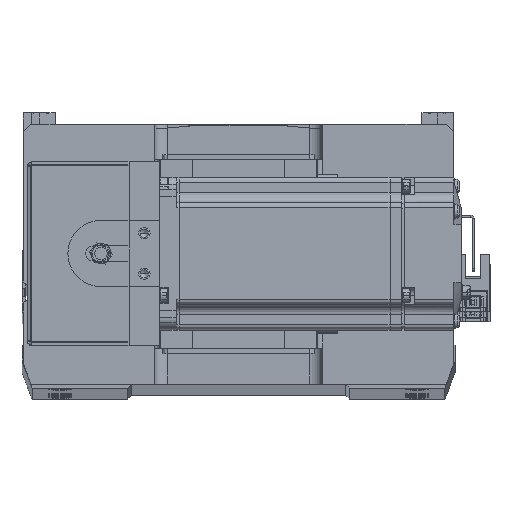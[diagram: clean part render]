
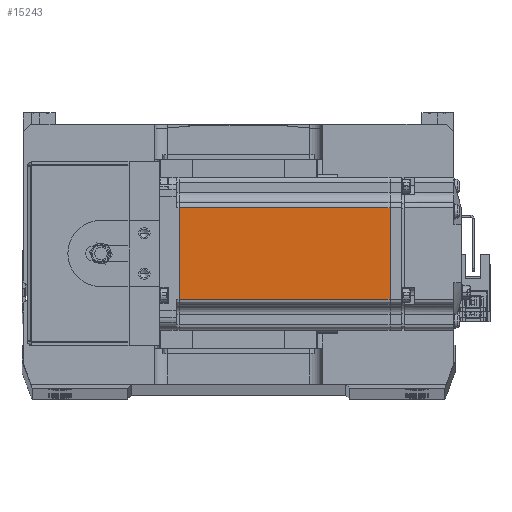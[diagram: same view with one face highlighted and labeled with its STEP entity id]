
A CAD part, top view. The second image highlights one B-rep face of the part: STEP entity #15243.
In plain terms, the highlighted planar face has unit normal (0, 0, 1) as drawn and (0, 1, 0) by its records, which use the part's own axes.
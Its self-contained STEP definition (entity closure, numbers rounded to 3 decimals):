
#178 = DIRECTION ( 'NONE',  ( 0., 1., 0. ) ) ;
#657 = DIRECTION ( 'NONE',  ( 0., 0., 1. ) ) ;
#1361 = VERTEX_POINT ( 'NONE', #39278 ) ;
#2673 = EDGE_CURVE ( 'NONE', #9755, #37038, #24709, .T. ) ;
#5608 = DIRECTION ( 'NONE',  ( 0., 0., 1. ) ) ;
#5767 = VERTEX_POINT ( 'NONE', #23130 ) ;
#6433 = VECTOR ( 'NONE', #21697, 1000. ) ;
#7419 = DIRECTION ( 'NONE',  ( 1., 0., 0. ) ) ;
#7828 = CARTESIAN_POINT ( 'NONE',  ( -6.5, 30., 25. ) ) ;
#8279 = PLANE ( 'NONE',  #18482 ) ;
#9653 = EDGE_CURVE ( 'NONE', #9755, #5767, #30272, .T. ) ;
#9755 = VERTEX_POINT ( 'NONE', #14109 ) ;
#11166 = CARTESIAN_POINT ( 'NONE',  ( -7.75, 30., 18. ) ) ;
#13024 = EDGE_CURVE ( 'NONE', #5767, #1361, #44594, .T. ) ;
#13550 = EDGE_LOOP ( 'NONE', ( #28449, #27804, #24013, #41992 ) ) ;
#14109 = CARTESIAN_POINT ( 'NONE',  ( -7.75, 30., -18. ) ) ;
#15243 = ADVANCED_FACE ( 'NONE', ( #25808 ), #8279, .T. ) ;
#18482 = AXIS2_PLACEMENT_3D ( 'NONE', #7828, #178, #657 ) ;
#18693 = CARTESIAN_POINT ( 'NONE',  ( -7.75, 30., 0. ) ) ;
#19917 = CARTESIAN_POINT ( 'NONE',  ( -6.5, 30., -18. ) ) ;
#21697 = DIRECTION ( 'NONE',  ( 0., 0., 1. ) ) ;
#23130 = CARTESIAN_POINT ( 'NONE',  ( -90.45, 30., -18. ) ) ;
#23476 = VECTOR ( 'NONE', #5608, 1000. ) ;
#24013 = ORIENTED_EDGE ( 'NONE', *, *, #13024, .T. ) ;
#24709 = LINE ( 'NONE', #18693, #6433 ) ;
#25808 = FACE_OUTER_BOUND ( 'NONE', #13550, .T. ) ;
#27804 = ORIENTED_EDGE ( 'NONE', *, *, #9653, .T. ) ;
#28449 = ORIENTED_EDGE ( 'NONE', *, *, #2673, .F. ) ;
#30272 = LINE ( 'NONE', #19917, #38650 ) ;
#32094 = CARTESIAN_POINT ( 'NONE',  ( -6.5, 30., 18. ) ) ;
#33009 = VECTOR ( 'NONE', #7419, 1000. ) ;
#33942 = DIRECTION ( 'NONE',  ( -1., 0., 0. ) ) ;
#35179 = EDGE_CURVE ( 'NONE', #1361, #37038, #35321, .T. ) ;
#35321 = LINE ( 'NONE', #32094, #33009 ) ;
#37038 = VERTEX_POINT ( 'NONE', #11166 ) ;
#38650 = VECTOR ( 'NONE', #33942, 1000. ) ;
#39278 = CARTESIAN_POINT ( 'NONE',  ( -90.45, 30., 18. ) ) ;
#41992 = ORIENTED_EDGE ( 'NONE', *, *, #35179, .T. ) ;
#44594 = LINE ( 'NONE', #45036, #23476 ) ;
#45036 = CARTESIAN_POINT ( 'NONE',  ( -90.45, 30., 0. ) ) ;
